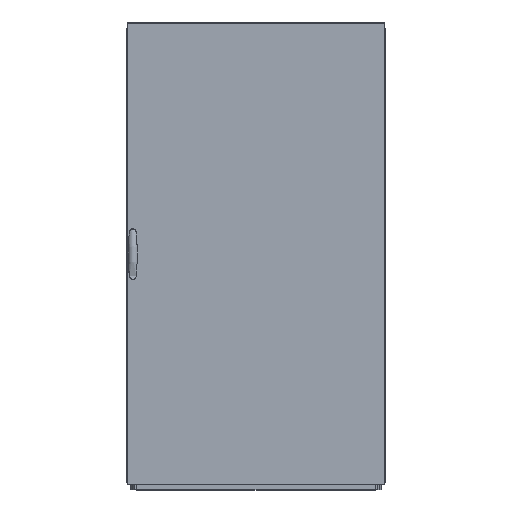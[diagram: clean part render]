
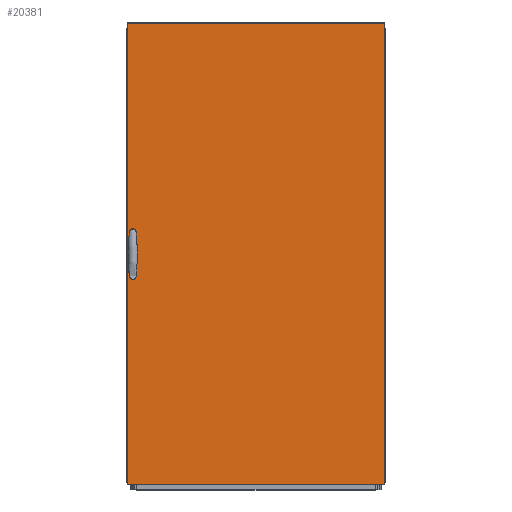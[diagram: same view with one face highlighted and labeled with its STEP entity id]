
A CAD part, top view. The second image highlights one B-rep face of the part: STEP entity #20381.
In plain terms, the highlighted planar face has unit normal (0, 0, 1) as drawn and (0, 0, -1) by its records, which use the part's own axes.
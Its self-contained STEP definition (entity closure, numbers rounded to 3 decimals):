
#307=CIRCLE('',#22535,2.6);
#308=CIRCLE('',#22536,2.6);
#3273=ORIENTED_EDGE('',*,*,#7670,.T.);
#3274=ORIENTED_EDGE('',*,*,#7671,.T.);
#3275=ORIENTED_EDGE('',*,*,#7672,.T.);
#3276=ORIENTED_EDGE('',*,*,#7673,.T.);
#3277=ORIENTED_EDGE('',*,*,#7674,.T.);
#3278=ORIENTED_EDGE('',*,*,#7675,.T.);
#3279=ORIENTED_EDGE('',*,*,#7676,.T.);
#3280=ORIENTED_EDGE('',*,*,#7677,.T.);
#3281=ORIENTED_EDGE('',*,*,#7678,.T.);
#3282=ORIENTED_EDGE('',*,*,#7679,.T.);
#3283=ORIENTED_EDGE('',*,*,#7680,.T.);
#3284=ORIENTED_EDGE('',*,*,#7681,.T.);
#3285=ORIENTED_EDGE('',*,*,#7682,.T.);
#3286=ORIENTED_EDGE('',*,*,#7683,.T.);
#3287=ORIENTED_EDGE('',*,*,#7684,.T.);
#3288=ORIENTED_EDGE('',*,*,#7685,.T.);
#3289=ORIENTED_EDGE('',*,*,#7686,.T.);
#3290=ORIENTED_EDGE('',*,*,#7687,.F.);
#3291=ORIENTED_EDGE('',*,*,#7688,.F.);
#3292=ORIENTED_EDGE('',*,*,#7689,.T.);
#3293=ORIENTED_EDGE('',*,*,#7690,.T.);
#3294=ORIENTED_EDGE('',*,*,#7691,.T.);
#7670=EDGE_CURVE('',#10099,#10100,#12317,.T.);
#7671=EDGE_CURVE('',#10100,#10101,#12318,.T.);
#7672=EDGE_CURVE('',#10101,#10102,#12319,.T.);
#7673=EDGE_CURVE('',#10102,#10103,#12320,.T.);
#7674=EDGE_CURVE('',#10103,#10104,#12321,.T.);
#7675=EDGE_CURVE('',#10104,#10105,#12322,.T.);
#7676=EDGE_CURVE('',#10105,#10106,#12323,.T.);
#7677=EDGE_CURVE('',#10106,#10107,#12324,.T.);
#7678=EDGE_CURVE('',#10107,#10108,#12325,.T.);
#7679=EDGE_CURVE('',#10108,#10109,#12326,.T.);
#7680=EDGE_CURVE('',#10109,#10110,#12327,.T.);
#7681=EDGE_CURVE('',#10110,#10111,#12328,.T.);
#7682=EDGE_CURVE('',#10111,#10112,#12329,.T.);
#7683=EDGE_CURVE('',#10112,#10113,#12330,.T.);
#7684=EDGE_CURVE('',#10113,#10114,#12331,.T.);
#7685=EDGE_CURVE('',#10114,#10099,#12332,.T.);
#7686=EDGE_CURVE('',#10115,#10116,#12333,.T.);
#7687=EDGE_CURVE('',#10117,#10116,#12334,.T.);
#7688=EDGE_CURVE('',#10118,#10117,#12335,.T.);
#7689=EDGE_CURVE('',#10118,#10115,#12336,.T.);
#7690=EDGE_CURVE('',#10119,#10119,#307,.T.);
#7691=EDGE_CURVE('',#10120,#10120,#308,.T.);
#10099=VERTEX_POINT('',#31535);
#10100=VERTEX_POINT('',#31536);
#10101=VERTEX_POINT('',#31538);
#10102=VERTEX_POINT('',#31540);
#10103=VERTEX_POINT('',#31542);
#10104=VERTEX_POINT('',#31544);
#10105=VERTEX_POINT('',#31546);
#10106=VERTEX_POINT('',#31548);
#10107=VERTEX_POINT('',#31550);
#10108=VERTEX_POINT('',#31552);
#10109=VERTEX_POINT('',#31554);
#10110=VERTEX_POINT('',#31556);
#10111=VERTEX_POINT('',#31558);
#10112=VERTEX_POINT('',#31560);
#10113=VERTEX_POINT('',#31562);
#10114=VERTEX_POINT('',#31564);
#10115=VERTEX_POINT('',#31567);
#10116=VERTEX_POINT('',#31568);
#10117=VERTEX_POINT('',#31570);
#10118=VERTEX_POINT('',#31572);
#10119=VERTEX_POINT('',#31575);
#10120=VERTEX_POINT('',#31577);
#12317=LINE('',#31534,#14871);
#12318=LINE('',#31537,#14872);
#12319=LINE('',#31539,#14873);
#12320=LINE('',#31541,#14874);
#12321=LINE('',#31543,#14875);
#12322=LINE('',#31545,#14876);
#12323=LINE('',#31547,#14877);
#12324=LINE('',#31549,#14878);
#12325=LINE('',#31551,#14879);
#12326=LINE('',#31553,#14880);
#12327=LINE('',#31555,#14881);
#12328=LINE('',#31557,#14882);
#12329=LINE('',#31559,#14883);
#12330=LINE('',#31561,#14884);
#12331=LINE('',#31563,#14885);
#12332=LINE('',#31565,#14886);
#12333=LINE('',#31566,#14887);
#12334=LINE('',#31569,#14888);
#12335=LINE('',#31571,#14889);
#12336=LINE('',#31573,#14890);
#14871=VECTOR('',#25815,1000.);
#14872=VECTOR('',#25816,1000.);
#14873=VECTOR('',#25817,1000.);
#14874=VECTOR('',#25818,1000.);
#14875=VECTOR('',#25819,1000.);
#14876=VECTOR('',#25820,1000.);
#14877=VECTOR('',#25821,1000.);
#14878=VECTOR('',#25822,1000.);
#14879=VECTOR('',#25823,1000.);
#14880=VECTOR('',#25824,1000.);
#14881=VECTOR('',#25825,1000.);
#14882=VECTOR('',#25826,1000.);
#14883=VECTOR('',#25827,1000.);
#14884=VECTOR('',#25828,1000.);
#14885=VECTOR('',#25829,1000.);
#14886=VECTOR('',#25830,1000.);
#14887=VECTOR('',#25831,1000.);
#14888=VECTOR('',#25832,1000.);
#14889=VECTOR('',#25833,1000.);
#14890=VECTOR('',#25834,1000.);
#16896=EDGE_LOOP('',(#3273,#3274,#3275,#3276,#3277,#3278,#3279,#3280,#3281,
#3282,#3283,#3284,#3285,#3286,#3287,#3288));
#16897=EDGE_LOOP('',(#3289,#3290,#3291,#3292));
#16898=EDGE_LOOP('',(#3293));
#16899=EDGE_LOOP('',(#3294));
#18230=FACE_BOUND('',#16896,.T.);
#18231=FACE_BOUND('',#16897,.T.);
#18232=FACE_BOUND('',#16898,.T.);
#18233=FACE_BOUND('',#16899,.T.);
#19356=PLANE('',#22534);
#20381=ADVANCED_FACE('',(#18230,#18231,#18232,#18233),#19356,.F.);
#22534=AXIS2_PLACEMENT_3D('',#31533,#25813,#25814);
#22535=AXIS2_PLACEMENT_3D('',#31574,#25835,#25836);
#22536=AXIS2_PLACEMENT_3D('',#31576,#25837,#25838);
#25813=DIRECTION('',(0.,0.,1.));
#25814=DIRECTION('',(1.,0.,0.));
#25815=DIRECTION('',(0.,-1.,0.));
#25816=DIRECTION('',(0.342,-0.94,0.));
#25817=DIRECTION('',(1.,0.,0.));
#25818=DIRECTION('',(0.,1.,0.));
#25819=DIRECTION('',(1.,0.,0.));
#25820=DIRECTION('',(0.,-1.,0.));
#25821=DIRECTION('',(1.,0.,0.));
#25822=DIRECTION('',(0.342,0.94,0.));
#25823=DIRECTION('',(0.,1.,0.));
#25824=DIRECTION('',(-0.342,0.94,0.));
#25825=DIRECTION('',(-1.,0.,0.));
#25826=DIRECTION('',(0.,-1.,0.));
#25827=DIRECTION('',(-1.,0.,0.));
#25828=DIRECTION('',(0.,1.,0.));
#25829=DIRECTION('',(-1.,0.,0.));
#25830=DIRECTION('',(-0.342,-0.94,0.));
#25831=DIRECTION('',(-1.,0.,0.));
#25832=DIRECTION('',(0.,-1.,0.));
#25833=DIRECTION('',(-1.,0.,0.));
#25834=DIRECTION('',(0.,-1.,0.));
#25835=DIRECTION('',(0.,0.,1.));
#25836=DIRECTION('',(1.,0.,0.));
#25837=DIRECTION('',(0.,0.,1.));
#25838=DIRECTION('',(1.,0.,0.));
#31533=CARTESIAN_POINT('',(496.5,1782.,-16.8));
#31534=CARTESIAN_POINT('',(462.95,956.256,-16.8));
#31535=CARTESIAN_POINT('',(462.95,956.256,-16.8));
#31536=CARTESIAN_POINT('',(462.95,825.744,-16.8));
#31537=CARTESIAN_POINT('',(462.95,825.744,-16.8));
#31538=CARTESIAN_POINT('',(464.95,820.25,-16.8));
#31539=CARTESIAN_POINT('',(464.95,820.25,-16.8));
#31540=CARTESIAN_POINT('',(470.2,820.25,-16.8));
#31541=CARTESIAN_POINT('',(470.2,820.25,-16.8));
#31542=CARTESIAN_POINT('',(470.2,828.,-16.8));
#31543=CARTESIAN_POINT('',(470.2,828.,-16.8));
#31544=CARTESIAN_POINT('',(481.2,828.,-16.8));
#31545=CARTESIAN_POINT('',(481.2,828.,-16.8));
#31546=CARTESIAN_POINT('',(481.2,820.25,-16.8));
#31547=CARTESIAN_POINT('',(481.2,820.25,-16.8));
#31548=CARTESIAN_POINT('',(486.45,820.25,-16.8));
#31549=CARTESIAN_POINT('',(486.45,820.25,-16.8));
#31550=CARTESIAN_POINT('',(488.45,825.744,-16.8));
#31551=CARTESIAN_POINT('',(488.45,825.744,-16.8));
#31552=CARTESIAN_POINT('',(488.45,956.256,-16.8));
#31553=CARTESIAN_POINT('',(488.45,956.256,-16.8));
#31554=CARTESIAN_POINT('',(486.45,961.75,-16.8));
#31555=CARTESIAN_POINT('',(486.45,961.75,-16.8));
#31556=CARTESIAN_POINT('',(481.2,961.75,-16.8));
#31557=CARTESIAN_POINT('',(481.2,961.75,-16.8));
#31558=CARTESIAN_POINT('',(481.2,954.,-16.8));
#31559=CARTESIAN_POINT('',(481.2,954.,-16.8));
#31560=CARTESIAN_POINT('',(470.2,954.,-16.8));
#31561=CARTESIAN_POINT('',(470.2,954.,-16.8));
#31562=CARTESIAN_POINT('',(470.2,961.75,-16.8));
#31563=CARTESIAN_POINT('',(470.2,961.75,-16.8));
#31564=CARTESIAN_POINT('',(464.95,961.75,-16.8));
#31565=CARTESIAN_POINT('',(464.95,961.75,-16.8));
#31566=CARTESIAN_POINT('',(496.5,0.,-16.8));
#31567=CARTESIAN_POINT('',(496.5,0.,-16.8));
#31568=CARTESIAN_POINT('',(-496.5,0.,-16.8));
#31569=CARTESIAN_POINT('',(-496.5,1782.,-16.8));
#31570=CARTESIAN_POINT('',(-496.5,1782.,-16.8));
#31571=CARTESIAN_POINT('',(496.5,1782.,-16.8));
#31572=CARTESIAN_POINT('',(496.5,1782.,-16.8));
#31573=CARTESIAN_POINT('',(496.5,1782.,-16.8));
#31574=CARTESIAN_POINT('',(475.7,961.,-16.8));
#31575=CARTESIAN_POINT('',(478.3,961.,-16.8));
#31576=CARTESIAN_POINT('',(475.7,821.,-16.8));
#31577=CARTESIAN_POINT('',(478.3,821.,-16.8));
